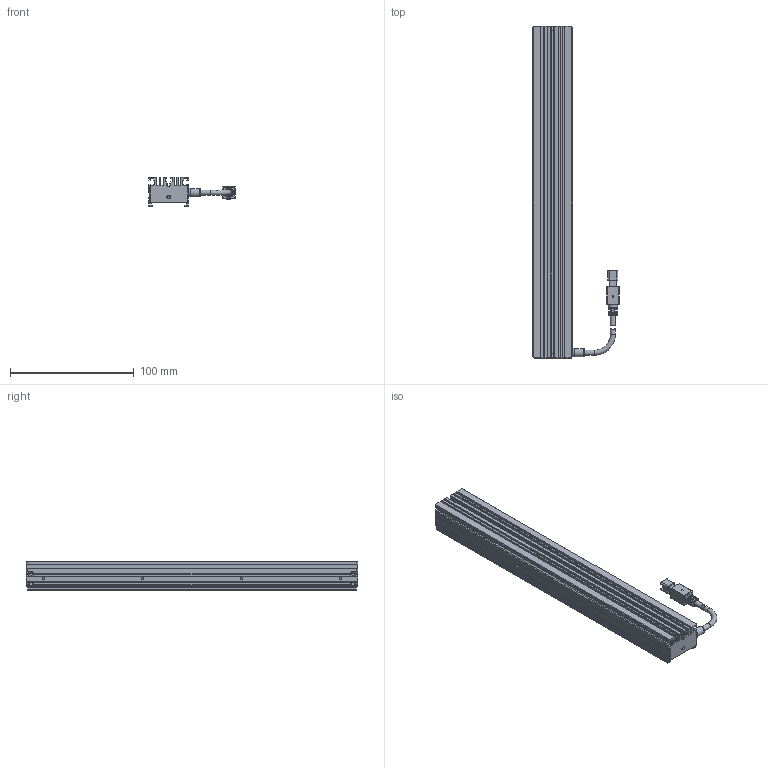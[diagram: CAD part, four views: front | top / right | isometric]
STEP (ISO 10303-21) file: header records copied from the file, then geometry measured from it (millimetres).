
FILE_DESCRIPTION (( 'STEP AP203' ), '1' );
FILE_NAME ('OPT-ULI26832-UV-V1.0尨砩芞.STEP', '2024-12-10T11:14:01', ( '' ), ( '' ), 'SwSTEP 2.0', 'SolidWorks 2016', '' );
FILE_SCHEMA (( 'CONFIG_CONTROL_DESIGN' ));
Length unit declared in the file: millimetre
Products named in the file (1): OPT-ULI26832-UV-V1.0尨砩芞
Bounding box: 69.6 x 268 x 24 mm (x, y, z)
Volume: 147278.2 mm3; surface area: 66811 mm2
Topology: 5 solids, 13 shells, 576 faces, 1493 edges, 961 vertices
Faces by surface type: plane 393, cylinder 130, cone 28, bspline 17, torus 8
Full cylindrical faces by diameter (mm): 1.1 x2, 1.4 x2, 1.6 x7, 2 x15, 2.4 x7, 2.5 x2, 3 x2, 4.1 x4, 6.5 x1, 7 x1, 7.5 x1
Entity records: 17647 total; most frequent: CARTESIAN_POINT 4064, ORIENTED_EDGE 2784, DIRECTION 2689, EDGE_CURVE 1392, LINE 959, VECTOR 959, VERTEX_POINT 932, AXIS2_PLACEMENT_3D 865
